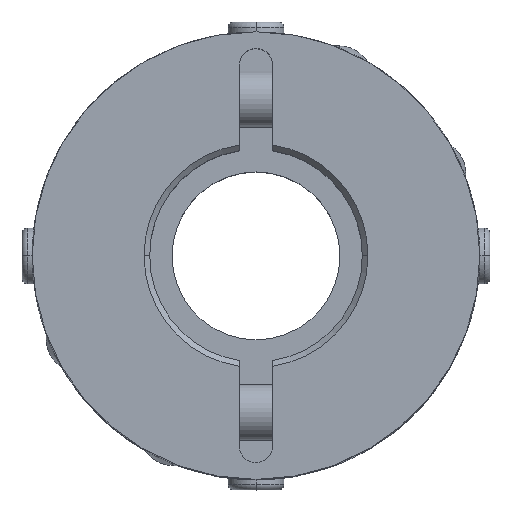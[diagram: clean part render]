
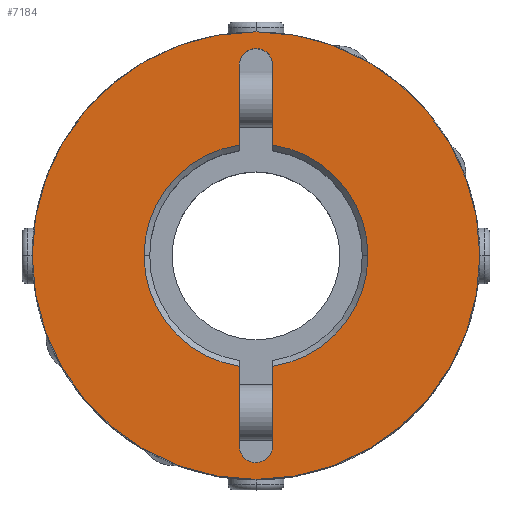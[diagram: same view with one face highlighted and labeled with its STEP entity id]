
A CAD part, top view. The second image highlights one B-rep face of the part: STEP entity #7184.
In plain terms, the highlighted planar face has unit normal (0, 0, 1).
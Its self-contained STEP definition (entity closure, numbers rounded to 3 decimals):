
#2862=CARTESIAN_POINT('',(-1.061,18.061,20.0));
#2863=VERTEX_POINT('',#2862);
#2879=CARTESIAN_POINT('',(1.5,17.,20.0));
#2880=VERTEX_POINT('',#2879);
#2887=CARTESIAN_POINT('',(0.,17.,20.0));
#2888=DIRECTION('',(0.0,0.0,1.));
#2889=DIRECTION('',(0.707,0.707,0.0));
#2890=AXIS2_PLACEMENT_3D('',#2887,#2888,#2889);
#2891=CIRCLE('',#2890,1.5);
#2892=EDGE_CURVE('',#2880,#2863,#2891,.T.);
#2904=CARTESIAN_POINT('',(1.061,-18.061,20.0));
#2905=VERTEX_POINT('',#2904);
#2921=CARTESIAN_POINT('',(-1.5,-17.,20.0));
#2922=VERTEX_POINT('',#2921);
#2929=CARTESIAN_POINT('',(0.0,-17.,20.0));
#2930=DIRECTION('',(0.0,0.0,1.0));
#2931=DIRECTION('',(-0.707,-0.707,0.0));
#2932=AXIS2_PLACEMENT_3D('',#2929,#2930,#2931);
#2933=CIRCLE('',#2932,1.5);
#2934=EDGE_CURVE('',#2922,#2905,#2933,.T.);
#3035=CARTESIAN_POINT('',(-10.0,0.,20.0));
#3036=VERTEX_POINT('',#3035);
#3043=CARTESIAN_POINT('',(-1.5,-9.887,20.0));
#3044=VERTEX_POINT('',#3043);
#3045=CARTESIAN_POINT('',(0.0,0.0,20.0));
#3046=DIRECTION('',(0.0,0.0,1.0));
#3047=DIRECTION('',(-1.0,0.0,0.0));
#3048=AXIS2_PLACEMENT_3D('',#3045,#3046,#3047);
#3049=CIRCLE('',#3048,10.0);
#3050=EDGE_CURVE('',#3036,#3044,#3049,.T.);
#3074=CARTESIAN_POINT('',(10.0,0.,20.0));
#3075=VERTEX_POINT('',#3074);
#3082=CARTESIAN_POINT('',(1.5,9.887,20.0));
#3083=VERTEX_POINT('',#3082);
#3084=CARTESIAN_POINT('',(0.0,0.0,20.0));
#3085=DIRECTION('',(0.0,0.0,1.0));
#3086=DIRECTION('',(1.0,0.0,0.0));
#3087=AXIS2_PLACEMENT_3D('',#3084,#3085,#3086);
#3088=CIRCLE('',#3087,10.0);
#3089=EDGE_CURVE('',#3075,#3083,#3088,.T.);
#3566=CARTESIAN_POINT('',(-20.0,0.,20.0));
#3567=VERTEX_POINT('',#3566);
#3574=CARTESIAN_POINT('',(20.0,0.0,20.0));
#3575=VERTEX_POINT('',#3574);
#3576=CARTESIAN_POINT('',(0.0,0.0,20.0));
#3577=DIRECTION('',(0.0,0.0,-1.0));
#3578=DIRECTION('',(1.0,0.0,0.0));
#3579=AXIS2_PLACEMENT_3D('',#3576,#3577,#3578);
#3580=CIRCLE('',#3579,20.0);
#3581=EDGE_CURVE('',#3567,#3575,#3580,.T.);
#6510=CARTESIAN_POINT('',(0.0,0.0,20.0));
#6511=DIRECTION('',(0.0,0.0,-1.0));
#6512=DIRECTION('',(1.0,0.0,0.0));
#6513=AXIS2_PLACEMENT_3D('',#6510,#6511,#6512);
#6514=CIRCLE('',#6513,20.0);
#6515=EDGE_CURVE('',#3575,#3567,#6514,.T.);
#6995=CARTESIAN_POINT('',(-1.5,17.,20.0));
#6996=VERTEX_POINT('',#6995);
#7003=CARTESIAN_POINT('',(-1.5,9.887,20.0));
#7004=VERTEX_POINT('',#7003);
#7005=CARTESIAN_POINT('',(-1.5,9.887,20.0));
#7006=DIRECTION('',(0.0,1.0,0.0));
#7007=VECTOR('',#7006,7.113);
#7008=LINE('',#7005,#7007);
#7009=EDGE_CURVE('',#7004,#6996,#7008,.T.);
#7084=CARTESIAN_POINT('',(1.5,17.,20.0));
#7085=DIRECTION('',(0.0,-1.0,0.0));
#7086=VECTOR('',#7085,7.113);
#7087=LINE('',#7084,#7086);
#7088=EDGE_CURVE('',#2880,#3083,#7087,.T.);
#7106=CARTESIAN_POINT('',(1.5,-9.887,20.0));
#7107=VERTEX_POINT('',#7106);
#7121=CARTESIAN_POINT('',(0.0,0.0,20.0));
#7122=DIRECTION('',(0.0,0.0,1.0));
#7123=DIRECTION('',(1.0,0.0,0.0));
#7124=AXIS2_PLACEMENT_3D('',#7121,#7122,#7123);
#7125=CIRCLE('',#7124,10.0);
#7126=EDGE_CURVE('',#7107,#3075,#7125,.T.);
#7131=CARTESIAN_POINT('',(1.818,0.,20.0));
#7132=DIRECTION('',(0.0,0.0,1.0));
#7133=DIRECTION('',(1.0,0.0,0.0));
#7134=AXIS2_PLACEMENT_3D('',#7131,#7132,#7133);
#7135=PLANE('',#7134);
#7136=ORIENTED_EDGE('',*,*,#6515,.F.);
#7137=ORIENTED_EDGE('',*,*,#3581,.F.);
#7138=EDGE_LOOP('',(#7136,#7137));
#7139=FACE_OUTER_BOUND('',#7138,.T.);
#7140=ORIENTED_EDGE('',*,*,#7126,.F.);
#7141=CARTESIAN_POINT('',(1.5,-17.,20.0));
#7142=VERTEX_POINT('',#7141);
#7143=CARTESIAN_POINT('',(1.5,-9.887,20.0));
#7144=DIRECTION('',(0.0,-1.0,0.0));
#7145=VECTOR('',#7144,7.113);
#7146=LINE('',#7143,#7145);
#7147=EDGE_CURVE('',#7107,#7142,#7146,.T.);
#7148=ORIENTED_EDGE('',*,*,#7147,.T.);
#7149=CARTESIAN_POINT('',(0.0,-17.,20.0));
#7150=DIRECTION('',(0.0,0.0,1.0));
#7151=DIRECTION('',(-0.707,-0.707,0.0));
#7152=AXIS2_PLACEMENT_3D('',#7149,#7150,#7151);
#7153=CIRCLE('',#7152,1.5);
#7154=EDGE_CURVE('',#2905,#7142,#7153,.T.);
#7155=ORIENTED_EDGE('',*,*,#7154,.F.);
#7156=ORIENTED_EDGE('',*,*,#2934,.F.);
#7157=CARTESIAN_POINT('',(-1.5,-17.,20.0));
#7158=DIRECTION('',(0.0,1.0,0.0));
#7159=VECTOR('',#7158,7.113);
#7160=LINE('',#7157,#7159);
#7161=EDGE_CURVE('',#2922,#3044,#7160,.T.);
#7162=ORIENTED_EDGE('',*,*,#7161,.T.);
#7163=ORIENTED_EDGE('',*,*,#3050,.F.);
#7164=CARTESIAN_POINT('',(0.0,0.0,20.0));
#7165=DIRECTION('',(0.0,0.0,1.0));
#7166=DIRECTION('',(-1.0,0.0,0.0));
#7167=AXIS2_PLACEMENT_3D('',#7164,#7165,#7166);
#7168=CIRCLE('',#7167,10.0);
#7169=EDGE_CURVE('',#7004,#3036,#7168,.T.);
#7170=ORIENTED_EDGE('',*,*,#7169,.F.);
#7171=ORIENTED_EDGE('',*,*,#7009,.T.);
#7172=CARTESIAN_POINT('',(0.,17.,20.0));
#7173=DIRECTION('',(0.0,0.0,1.));
#7174=DIRECTION('',(0.707,0.707,0.0));
#7175=AXIS2_PLACEMENT_3D('',#7172,#7173,#7174);
#7176=CIRCLE('',#7175,1.5);
#7177=EDGE_CURVE('',#2863,#6996,#7176,.T.);
#7178=ORIENTED_EDGE('',*,*,#7177,.F.);
#7179=ORIENTED_EDGE('',*,*,#2892,.F.);
#7180=ORIENTED_EDGE('',*,*,#7088,.T.);
#7181=ORIENTED_EDGE('',*,*,#3089,.F.);
#7182=EDGE_LOOP('',(#7140,#7148,#7155,#7156,#7162,#7163,#7170,#7171,#7178,#7179,#7180,#7181));
#7183=FACE_BOUND('',#7182,.T.);
#7184=ADVANCED_FACE('',(#7139,#7183),#7135,.T.);
